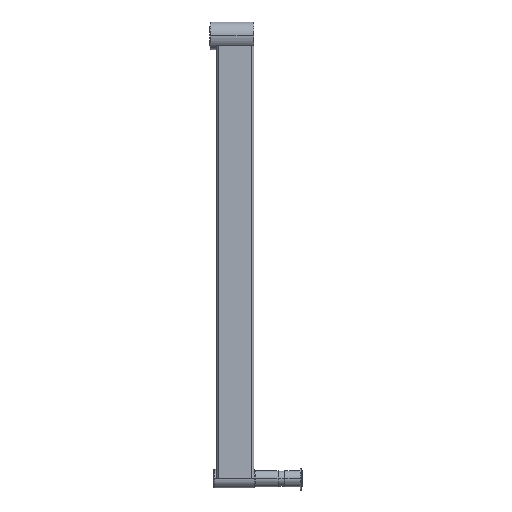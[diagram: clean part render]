
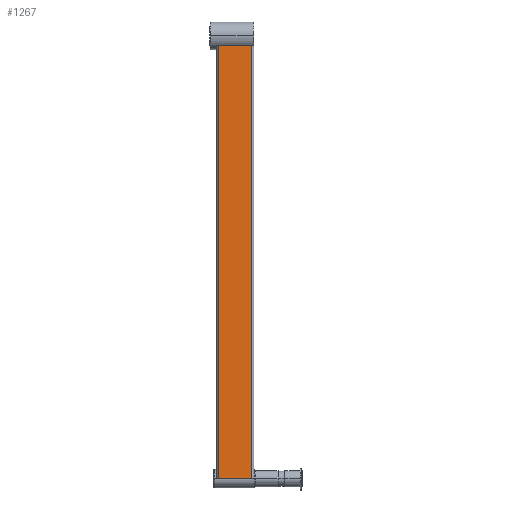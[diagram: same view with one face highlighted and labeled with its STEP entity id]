
A CAD part, left-side view. The second image highlights one B-rep face of the part: STEP entity #1267.
In plain terms, the highlighted planar face has unit normal (-1, 0, 0).
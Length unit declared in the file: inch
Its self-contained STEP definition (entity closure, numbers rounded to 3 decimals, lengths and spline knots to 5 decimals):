
#22 = ORIENTED_EDGE ( 'NONE', *, *, #1701, .F. ) ;
#41 = VERTEX_POINT ( 'NONE', #2047 ) ;
#152 = PLANE ( 'NONE',  #631 ) ;
#631 = AXIS2_PLACEMENT_3D ( 'NONE', #4470, #3950, #2846 ) ;
#646 = EDGE_LOOP ( 'NONE', ( #1949, #22, #3615, #1901 ) ) ;
#664 = VERTEX_POINT ( 'NONE', #2040 ) ;
#675 = DIRECTION ( 'NONE',  ( 0., -1., 0. ) ) ;
#953 = EDGE_CURVE ( 'NONE', #41, #1294, #4550, .T. ) ;
#954 = VECTOR ( 'NONE', #675, 39.37008 ) ;
#1126 = DIRECTION ( 'NONE',  ( 0., 0., -1. ) ) ;
#1225 = VECTOR ( 'NONE', #5599, 39.37008 ) ;
#1256 = EDGE_CURVE ( 'NONE', #1294, #664, #4932, .T. ) ;
#1261 = CARTESIAN_POINT ( 'NONE',  ( 0., -0.1, 11.741 ) ) ;
#1267 = ADVANCED_FACE ( 'NONE', ( #3463 ), #152, .F. ) ;
#1294 = VERTEX_POINT ( 'NONE', #3915 ) ;
#1701 = EDGE_CURVE ( 'NONE', #6492, #664, #3748, .T. ) ;
#1901 = ORIENTED_EDGE ( 'NONE', *, *, #953, .T. ) ;
#1949 = ORIENTED_EDGE ( 'NONE', *, *, #1256, .T. ) ;
#2040 = CARTESIAN_POINT ( 'NONE',  ( 0., -1.9, -11.741 ) ) ;
#2047 = CARTESIAN_POINT ( 'NONE',  ( 0., -0.1, 11.741 ) ) ;
#2846 = DIRECTION ( 'NONE',  ( 0., 1., 0. ) ) ;
#3073 = VECTOR ( 'NONE', #1126, 39.37008 ) ;
#3224 = VECTOR ( 'NONE', #5455, 39.37008 ) ;
#3463 = FACE_OUTER_BOUND ( 'NONE', #646, .T. ) ;
#3491 = EDGE_CURVE ( 'NONE', #41, #6492, #4929, .T. ) ;
#3615 = ORIENTED_EDGE ( 'NONE', *, *, #3491, .F. ) ;
#3748 = LINE ( 'NONE', #4826, #3073 ) ;
#3824 = CARTESIAN_POINT ( 'NONE',  ( 0., -0.1, -11.741 ) ) ;
#3915 = CARTESIAN_POINT ( 'NONE',  ( 0., -0.1, -11.741 ) ) ;
#3950 = DIRECTION ( 'NONE',  ( 1., 0., 0. ) ) ;
#3961 = CARTESIAN_POINT ( 'NONE',  ( 0., -0.1, 11.741 ) ) ;
#4470 = CARTESIAN_POINT ( 'NONE',  ( 0., -0.1, 11.741 ) ) ;
#4550 = LINE ( 'NONE', #3961, #1225 ) ;
#4826 = CARTESIAN_POINT ( 'NONE',  ( 0., -1.9, 11.741 ) ) ;
#4929 = LINE ( 'NONE', #1261, #3224 ) ;
#4932 = LINE ( 'NONE', #3824, #954 ) ;
#5455 = DIRECTION ( 'NONE',  ( 0., -1., 0. ) ) ;
#5599 = DIRECTION ( 'NONE',  ( 0., 0., -1. ) ) ;
#6492 = VERTEX_POINT ( 'NONE', #6863 ) ;
#6863 = CARTESIAN_POINT ( 'NONE',  ( 0., -1.9, 11.741 ) ) ;
